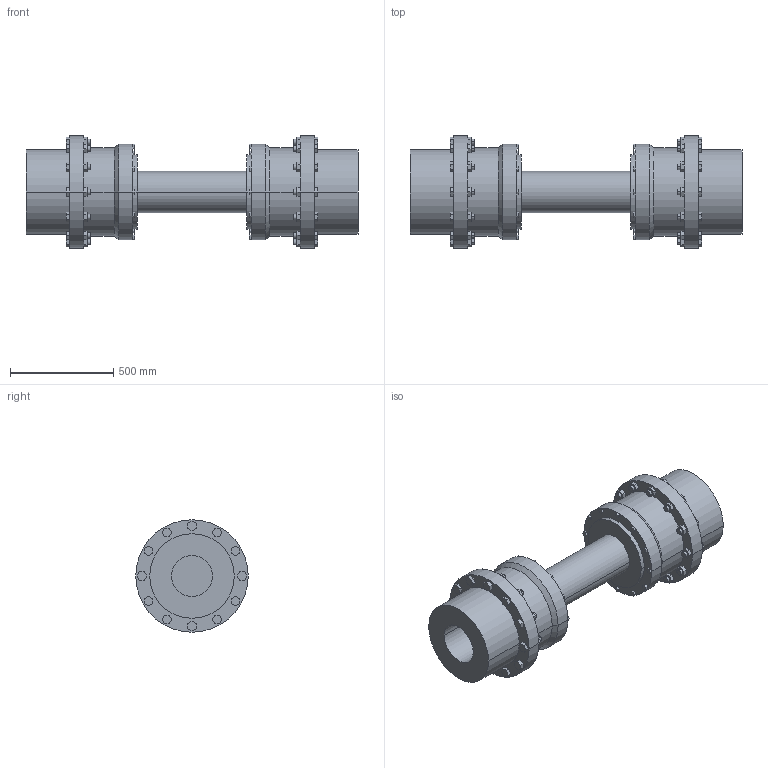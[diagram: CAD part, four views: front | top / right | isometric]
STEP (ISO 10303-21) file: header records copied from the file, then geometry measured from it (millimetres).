
FILE_DESCRIPTION((''),'2;1');
FILE_NAME('A19068500-0_ASM','2018-11-28T',('AB_Roschiwal'),('RENK AG'),'PRO/ENGINEER BY PARAMETRIC TECHNOLOGY CORPORATION, 2015440','PRO/ENGINEER BY PARAMETRIC TECHNOLOGY CORPORATION, 2015440','');
FILE_SCHEMA(('CONFIG_CONTROL_DESIGN'));
Length unit declared in the file: millimetre
Products named in the file (4): SBGK225_GEHAEUSE; SBGK225_NABE; SBGK225_WELLE; A19068500-0_ASM
Assembly tree (5 placements, depth 2):
  A19068500-0_ASM
    SBGK225_GEHAEUSE  x2
    SBGK225_NABE  x2
    SBGK225_WELLE
Bounding box: 1610 x 545 x 545 mm (x, y, z)
Volume: 162284752.3 mm3; surface area: 5657217.9 mm2
Topology: 5 solids, 5 shells, 660 faces, 1606 edges, 1068 vertices
Faces by surface type: plane 554, cylinder 102, cone 4
Entity records: 9734 total; most frequent: CARTESIAN_POINT 1683, ORIENTED_EDGE 1612, DIRECTION 1592, EDGE_CURVE 806, VECTOR 702, LINE 702, VERTEX_POINT 536, AXIS2_PLACEMENT_3D 445
